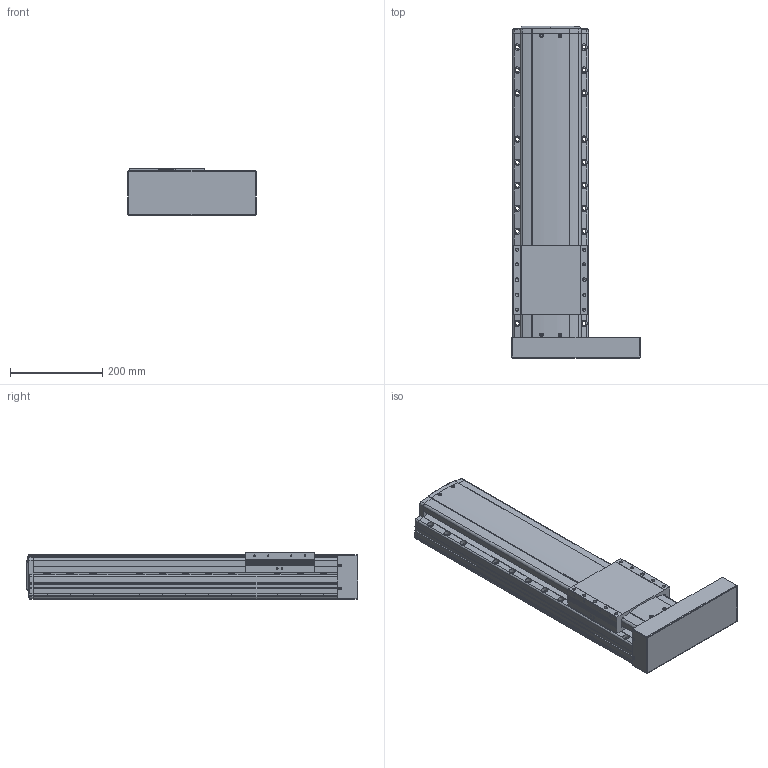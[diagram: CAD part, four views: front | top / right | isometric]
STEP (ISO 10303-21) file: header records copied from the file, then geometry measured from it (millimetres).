
FILE_DESCRIPTION(('STEP AP214'),'1');
FILE_NAME('Z:/Web/3D/PSA165/STP/PSA165-400 (3D)/PSA165ㅁㅁ-400PR.stp','2014-06-23T11:10:17',(' '),(' '),'Spatial InterOp 3D',' ',' ');
FILE_SCHEMA(('automotive_design'));
Length unit declared in the file: millimetre
Products named in the file (23): 스크루 : Round - M4.0 x 12.0; RRCV-PA160; BASE; 스크루 : Round - M4.0 x 10.0; RN15; Screw 20; SLIDE; FRCV; MTPL; 스크루 : Round - M3.0 x 6.0
Bounding box: 281.93 x 720.8 x 104 mm (x, y, z)
Volume: 10621343.4 mm3; surface area: 745253.1 mm2
Topology: 23 solids, 23 shells, 1995 faces, 5381 edges, 3429 vertices
Faces by surface type: plane 1084, cylinder 641, cone 185, sphere 44, bspline 25, torus 16
Entity records: 81447 total; most frequent: CARTESIAN_POINT 14698, DIRECTION 10607, ORIENTED_EDGE 10486, EDGE_CURVE 5243, AXIS2_PLACEMENT_3D 3552, LINE 3503, VECTOR 3503, VERTEX_POINT 3429
